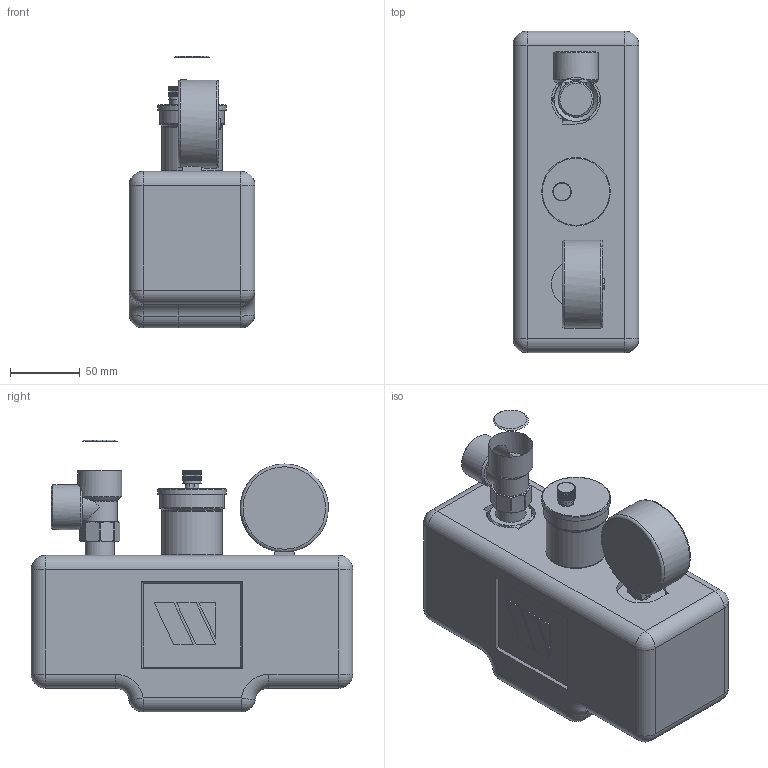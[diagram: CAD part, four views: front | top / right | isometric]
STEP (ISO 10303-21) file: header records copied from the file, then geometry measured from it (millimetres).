
FILE_DESCRIPTION(/* description */ (''),/* implementation_level */ '2;1');
FILE_NAME(/* name */ 'C:\Users\duckj\Desktop\Sicherheitsgruppe 10005227-WIDE10001068.stp',/* time_stamp */ '2019-03-26T09:53:53+01:00',/* author */ ('duckj'),/* organization */ (''),/* preprocessor_version */ 'ST-DEVELOPER v17',/* originating_system */ 'Autodesk Inventor 2018',/* authorisation */ '');
FILE_SCHEMA (('AUTOMOTIVE_DESIGN { 1 0 10303 214 3 1 1 }'));
Length unit declared in the file: millimetre
Products named in the file (3): WIDE90001068; WIDE90001066; WIDE90001067
Assembly tree (2 placements, depth 2):
  WIDE90001068
    WIDE90001066
    WIDE90001067
Bounding box: 90 x 230 x 194.49 mm (x, y, z)
Volume: 2400276 mm3; surface area: 231243.6 mm2
Topology: 3 solids, 3 shells, 761 faces, 1972 edges, 1281 vertices
Faces by surface type: plane 374, cylinder 216, cone 67, bspline 47, torus 45, sphere 12
Full cylindrical faces by diameter (mm): 3 x1, 5 x1, 6 x1, 7.5 x1, 7.7 x1, 8 x1, 8.376 x1, 9.5 x1, 11 x1, 11.5 x1, 13 x1, 13.65 x1, 14.95 x3, 15 x1, 16.6 x1, 16.662 x2, 17 x1, 18 x1, 18.5 x1, 18.63 x1, 21 x1, 22 x2, 22.2 x1, 24 x1, 24.117 x1, 26.441 x2, 26.5 x1, 31.5 x1, 32 x2, 38.2 x1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
Entity records: 24652 total; most frequent: CARTESIAN_POINT 5030, DIRECTION 3965, ORIENTED_EDGE 3918, EDGE_CURVE 1959, AXIS2_PLACEMENT_3D 1499, VERTEX_POINT 1281, LINE 967, VECTOR 967
